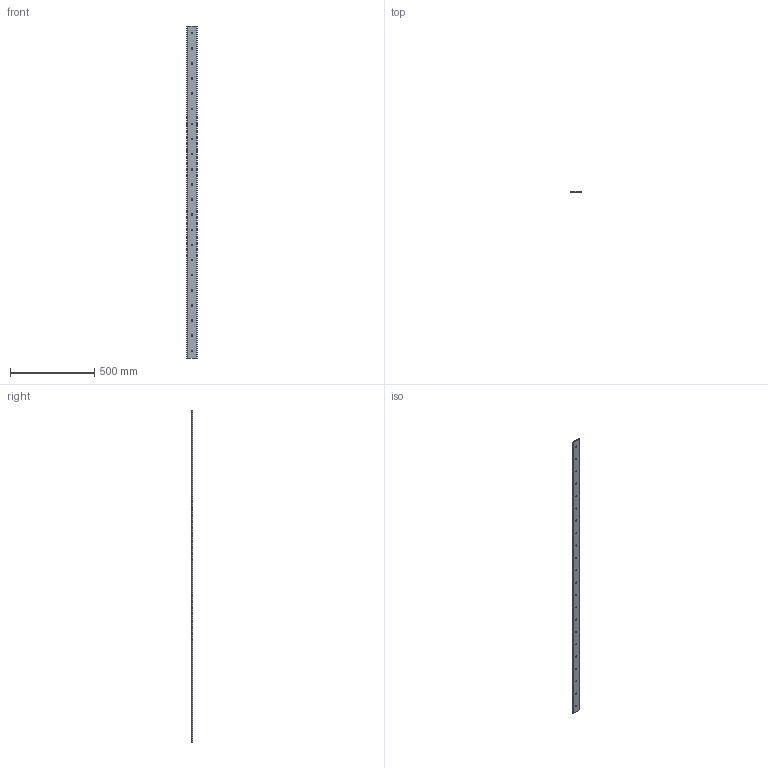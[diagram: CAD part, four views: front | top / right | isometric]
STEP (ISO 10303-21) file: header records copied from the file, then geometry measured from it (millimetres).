
FILE_DESCRIPTION(('STEP AP203'),'1');
FILE_NAME('slide_m60l1976p3.stp','2022-07-01T06:21:30',('TraceParts'),('TraceParts S.A.'),'Spatial InterOp 3D',' ',' ');
FILE_SCHEMA(('CONFIG_CONTROL_DESIGN'));
Length unit declared in the file: millimetre
Products named in the file (1): 1
Bounding box: 60.45 x 6.42 x 1976 mm (x, y, z)
Volume: 712988.2 mm3; surface area: 250476.4 mm2
Topology: 1 solids, 1 shells, 56 faces, 162 edges, 108 vertices
Faces by surface type: cylinder 48, plane 8
Entity records: 2034 total; most frequent: DIRECTION 372, CARTESIAN_POINT 327, ORIENTED_EDGE 324, EDGE_CURVE 162, AXIS2_PLACEMENT_3D 153, VERTEX_POINT 108, EDGE_LOOP 100, CIRCLE 96
